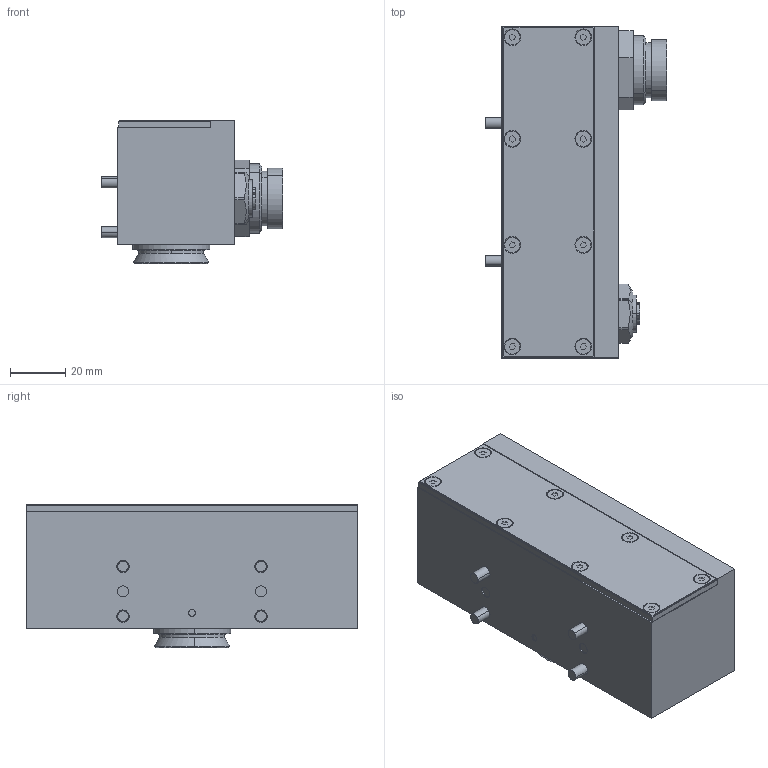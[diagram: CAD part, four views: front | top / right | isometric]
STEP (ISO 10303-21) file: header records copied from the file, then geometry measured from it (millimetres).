
FILE_DESCRIPTION (( 'STEP AP214' ), '1' );
FILE_NAME ('QCSM-05G7-8-04M12-10R.STEP', '2024-10-10T06:08:21', ( '' ), ( '' ), 'SwSTEP 2.0', 'SolidWorks 2018', '' );
FILE_SCHEMA (( 'AUTOMOTIVE_DESIGN' ));
Length unit declared in the file: millimetre
Products named in the file (10): QCSM-05G7-8-04M12-10R.sldasm-Part-5; QCSM-05G7-8-04M12-10R; QCSM-05G7-8-04M12-10R.sldasm-Part-6; QCSM-05G7-8-04M12-10R.sldasm-Part-8; QCSM-05G7-8-04M12-10R.sldasm-Part-1; QCSM-05G7-8-04M12-10R.sldasm-Part-7; QCSM-05G7-8-04M12-10R.sldasm-Part-9; QCSM-05G7-8-04M12-10R.sldasm-Part-3; QCSM-05G7-8-04M12-10R.sldasm-Part-2; QCSM-05G7-8-04M12-10R.sldasm-Part-4
Assembly tree (9 placements, depth 2):
  QCSM-05G7-8-04M12-10R
    QCSM-05G7-8-04M12-10R.sldasm-Part-1
    QCSM-05G7-8-04M12-10R.sldasm-Part-2
    QCSM-05G7-8-04M12-10R.sldasm-Part-3
    QCSM-05G7-8-04M12-10R.sldasm-Part-4
    QCSM-05G7-8-04M12-10R.sldasm-Part-5
    QCSM-05G7-8-04M12-10R.sldasm-Part-6
    QCSM-05G7-8-04M12-10R.sldasm-Part-7
    QCSM-05G7-8-04M12-10R.sldasm-Part-8
    QCSM-05G7-8-04M12-10R.sldasm-Part-9
Bounding box: 65.91 x 120.2 x 51.9 mm (x, y, z)
Volume: 235900.1 mm3; surface area: 35710.9 mm2
Topology: 9 solids, 11 shells, 890 faces, 2018 edges, 1215 vertices
Faces by surface type: plane 538, cylinder 217, cone 106, torus 29
Entity records: 29210 total; most frequent: CARTESIAN_POINT 5037, DIRECTION 4257, ORIENTED_EDGE 4004, EDGE_CURVE 2002, AXIS2_PLACEMENT_3D 1575, VERTEX_POINT 1215, LINE 1107, VECTOR 1107
